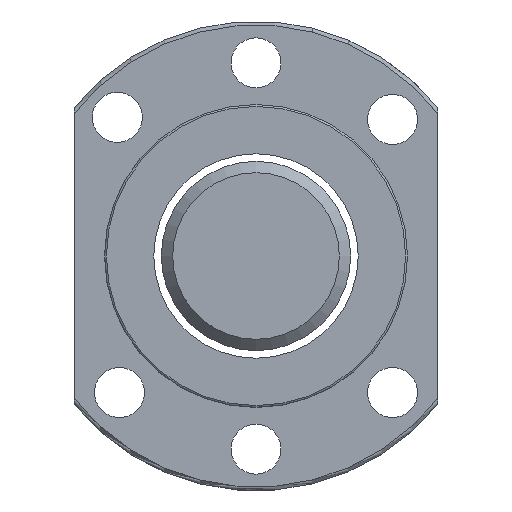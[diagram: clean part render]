
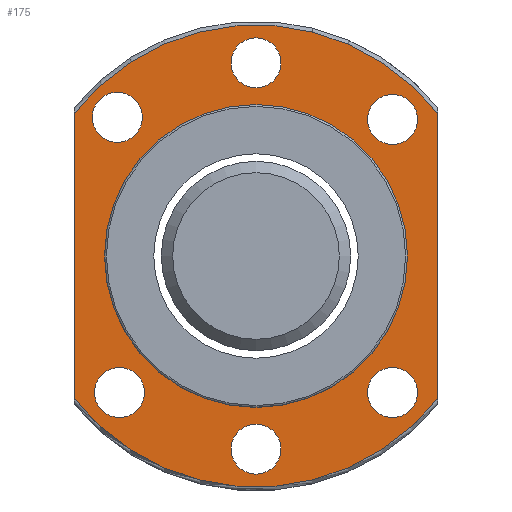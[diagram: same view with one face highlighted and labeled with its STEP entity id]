
A CAD part, left-side view. The second image highlights one B-rep face of the part: STEP entity #175.
In plain terms, the highlighted planar face has unit normal (-1, 0, 0).
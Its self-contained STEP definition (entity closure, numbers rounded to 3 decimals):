
#103=LINE('',#1269,#111);
#104=LINE('',#1270,#112);
#111=VECTOR('',#917,1.);
#112=VECTOR('',#918,1.);
#175=ADVANCED_FACE('',(#266,#267,#268,#269,#270,#271,#272,#234),#212,.F.);
#212=PLANE('',#770);
#234=FACE_OUTER_BOUND('',#354,.T.);
#266=FACE_BOUND('',#347,.T.);
#267=FACE_BOUND('',#348,.T.);
#268=FACE_BOUND('',#349,.T.);
#269=FACE_BOUND('',#350,.T.);
#270=FACE_BOUND('',#351,.T.);
#271=FACE_BOUND('',#352,.T.);
#272=FACE_BOUND('',#353,.T.);
#347=EDGE_LOOP('',(#464));
#348=EDGE_LOOP('',(#465));
#349=EDGE_LOOP('',(#466));
#350=EDGE_LOOP('',(#467));
#351=EDGE_LOOP('',(#468));
#352=EDGE_LOOP('',(#469));
#353=EDGE_LOOP('',(#470));
#354=EDGE_LOOP('',(#471,#472,#473,#474));
#464=ORIENTED_EDGE('',*,*,#645,.F.);
#465=ORIENTED_EDGE('',*,*,#646,.T.);
#466=ORIENTED_EDGE('',*,*,#647,.T.);
#467=ORIENTED_EDGE('',*,*,#648,.T.);
#468=ORIENTED_EDGE('',*,*,#649,.T.);
#469=ORIENTED_EDGE('',*,*,#650,.T.);
#470=ORIENTED_EDGE('',*,*,#651,.T.);
#471=ORIENTED_EDGE('',*,*,#643,.T.);
#472=ORIENTED_EDGE('',*,*,#652,.T.);
#473=ORIENTED_EDGE('',*,*,#624,.T.);
#474=ORIENTED_EDGE('',*,*,#653,.F.);
#565=VERTEX_POINT('',#1107);
#566=VERTEX_POINT('',#1108);
#578=VERTEX_POINT('',#1232);
#579=VERTEX_POINT('',#1234);
#580=VERTEX_POINT('',#1256);
#581=VERTEX_POINT('',#1258);
#582=VERTEX_POINT('',#1260);
#583=VERTEX_POINT('',#1262);
#584=VERTEX_POINT('',#1264);
#585=VERTEX_POINT('',#1266);
#586=VERTEX_POINT('',#1268);
#624=EDGE_CURVE('',#565,#566,#687,.T.);
#643=EDGE_CURVE('',#579,#578,#697,.T.);
#645=EDGE_CURVE('',#580,#580,#698,.T.);
#646=EDGE_CURVE('',#581,#581,#699,.T.);
#647=EDGE_CURVE('',#582,#582,#700,.T.);
#648=EDGE_CURVE('',#583,#583,#701,.T.);
#649=EDGE_CURVE('',#584,#584,#702,.T.);
#650=EDGE_CURVE('',#585,#585,#703,.T.);
#651=EDGE_CURVE('',#586,#586,#704,.T.);
#652=EDGE_CURVE('',#578,#565,#103,.T.);
#653=EDGE_CURVE('',#579,#566,#104,.T.);
#687=CIRCLE('',#747,30.5);
#697=CIRCLE('',#761,30.5);
#698=CIRCLE('',#763,20.);
#699=CIRCLE('',#764,3.3);
#700=CIRCLE('',#765,3.3);
#701=CIRCLE('',#766,3.3);
#702=CIRCLE('',#767,3.3);
#703=CIRCLE('',#768,3.3);
#704=CIRCLE('',#769,3.3);
#747=AXIS2_PLACEMENT_3D('',#1106,#867,#868);
#761=AXIS2_PLACEMENT_3D('',#1233,#899,#900);
#763=AXIS2_PLACEMENT_3D('',#1255,#903,#904);
#764=AXIS2_PLACEMENT_3D('',#1257,#905,#906);
#765=AXIS2_PLACEMENT_3D('',#1259,#907,#908);
#766=AXIS2_PLACEMENT_3D('',#1261,#909,#910);
#767=AXIS2_PLACEMENT_3D('',#1263,#911,#912);
#768=AXIS2_PLACEMENT_3D('',#1265,#913,#914);
#769=AXIS2_PLACEMENT_3D('',#1267,#915,#916);
#770=AXIS2_PLACEMENT_3D('',#1271,#919,#920);
#867=DIRECTION('',(-1.,0.,0.));
#868=DIRECTION('',(0.,-1.,0.));
#899=DIRECTION('',(-1.,0.,0.));
#900=DIRECTION('',(0.,-1.,0.));
#903=DIRECTION('',(-1.,0.,0.));
#904=DIRECTION('',(0.,-1.,0.));
#905=DIRECTION('',(1.,0.,0.));
#906=DIRECTION('',(0.,1.,0.));
#907=DIRECTION('',(1.,0.,0.));
#908=DIRECTION('',(0.,1.,0.));
#909=DIRECTION('',(1.,0.,0.));
#910=DIRECTION('',(0.,1.,0.));
#911=DIRECTION('',(1.,0.,0.));
#912=DIRECTION('',(0.,1.,0.));
#913=DIRECTION('',(1.,0.,0.));
#914=DIRECTION('',(0.,1.,0.));
#915=DIRECTION('',(1.,0.,0.));
#916=DIRECTION('',(0.,1.,0.));
#917=DIRECTION('',(0.,0.,-1.));
#918=DIRECTION('',(0.,0.,-1.));
#919=DIRECTION('',(1.,0.,0.));
#920=DIRECTION('',(0.,1.,0.));
#1106=CARTESIAN_POINT('',(-27.,0.,0.));
#1107=CARTESIAN_POINT('',(-27.,24.,-18.822));
#1108=CARTESIAN_POINT('',(-27.,-24.,-18.822));
#1232=CARTESIAN_POINT('',(-27.,24.,18.822));
#1233=CARTESIAN_POINT('',(-27.,0.,0.));
#1234=CARTESIAN_POINT('',(-27.,-24.,18.822));
#1255=CARTESIAN_POINT('',(-27.,0.,0.));
#1256=CARTESIAN_POINT('',(-27.,-20.,0.));
#1257=CARTESIAN_POINT('',(-27.,18.312,18.312));
#1258=CARTESIAN_POINT('',(-27.,21.612,18.312));
#1259=CARTESIAN_POINT('',(-27.,-18.031,18.031));
#1260=CARTESIAN_POINT('',(-27.,-14.731,18.031));
#1261=CARTESIAN_POINT('',(-27.,-18.031,-18.031));
#1262=CARTESIAN_POINT('',(-27.,-14.731,-18.031));
#1263=CARTESIAN_POINT('',(-27.,18.031,-18.031));
#1264=CARTESIAN_POINT('',(-27.,21.331,-18.031));
#1265=CARTESIAN_POINT('',(-27.,0.,25.5));
#1266=CARTESIAN_POINT('',(-27.,3.3,25.5));
#1267=CARTESIAN_POINT('',(-27.,0.,-25.5));
#1268=CARTESIAN_POINT('',(-27.,3.3,-25.5));
#1269=CARTESIAN_POINT('',(-27.,24.,0.));
#1270=CARTESIAN_POINT('',(-27.,-24.,0.));
#1271=CARTESIAN_POINT('',(-27.,25.25,0.));
